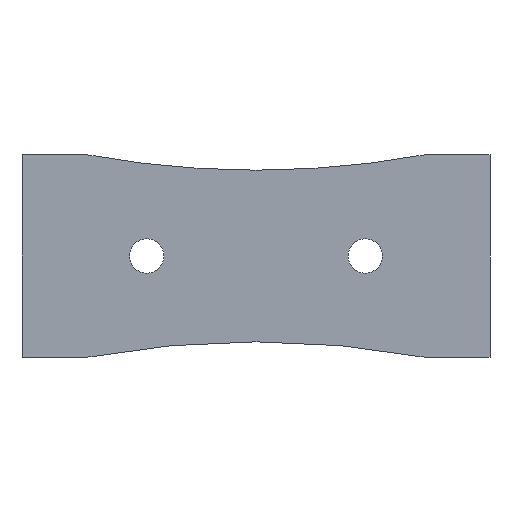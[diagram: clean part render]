
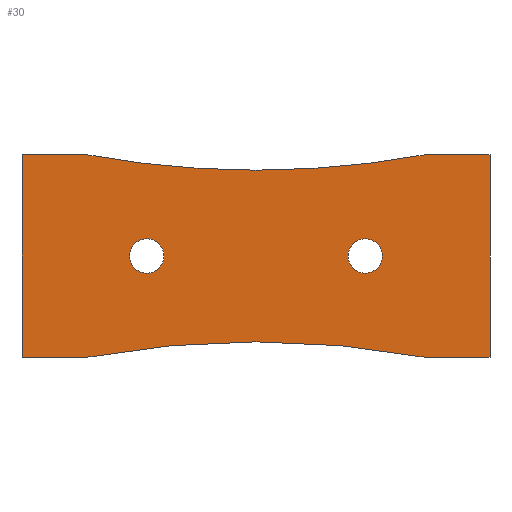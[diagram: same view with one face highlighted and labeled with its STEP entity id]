
A CAD part, left-side view. The second image highlights one B-rep face of the part: STEP entity #30.
In plain terms, the highlighted planar face has unit normal (-1, 0, 0).
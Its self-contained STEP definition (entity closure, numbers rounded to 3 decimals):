
#9 = ORIENTED_EDGE ( 'NONE', *, *, #171, .F. ) ;
#10 = ORIENTED_EDGE ( 'NONE', *, *, #26, .F. ) ;
#12 = ORIENTED_EDGE ( 'NONE', *, *, #210, .F. ) ;
#13 = ORIENTED_EDGE ( 'NONE', *, *, #14, .T. ) ;
#14 = EDGE_CURVE ( 'NONE', #208, #182, #412, .T. ) ;
#15 = ORIENTED_EDGE ( 'NONE', *, *, #180, .F. ) ;
#16 = ORIENTED_EDGE ( 'NONE', *, *, #223, .F. ) ;
#26 = EDGE_CURVE ( 'NONE', #211, #172, #407, .T. ) ;
#30 = ADVANCED_FACE ( 'NONE', ( #403, #402, #401 ), #400, .F. ) ;
#31 = EDGE_LOOP ( 'NONE', ( #32, #34 ) ) ;
#32 = ORIENTED_EDGE ( 'NONE', *, *, #33, .T. ) ;
#33 = EDGE_CURVE ( 'NONE', #79, #81, #395, .T. ) ;
#34 = ORIENTED_EDGE ( 'NONE', *, *, #86, .T. ) ;
#64 = EDGE_CURVE ( 'NONE', #65, #66, #319, .T. ) ;
#65 = VERTEX_POINT ( 'NONE', #315 ) ;
#66 = VERTEX_POINT ( 'NONE', #314 ) ;
#79 = VERTEX_POINT ( 'NONE', #461 ) ;
#81 = VERTEX_POINT ( 'NONE', #454 ) ;
#86 = EDGE_CURVE ( 'NONE', #81, #79, #452, .T. ) ;
#171 = EDGE_CURVE ( 'NONE', #172, #543, #784, .T. ) ;
#172 = VERTEX_POINT ( 'NONE', #780 ) ;
#180 = EDGE_CURVE ( 'NONE', #181, #182, #639, .T. ) ;
#181 = VERTEX_POINT ( 'NONE', #635 ) ;
#182 = VERTEX_POINT ( 'NONE', #634 ) ;
#208 = VERTEX_POINT ( 'NONE', #694 ) ;
#210 = EDGE_CURVE ( 'NONE', #208, #211, #693, .T. ) ;
#211 = VERTEX_POINT ( 'NONE', #689 ) ;
#214 = VERTEX_POINT ( 'NONE', #684 ) ;
#216 = EDGE_CURVE ( 'NONE', #214, #217, #683, .T. ) ;
#217 = VERTEX_POINT ( 'NONE', #679 ) ;
#223 = EDGE_CURVE ( 'NONE', #217, #181, #667, .T. ) ;
#231 = EDGE_LOOP ( 'NONE', ( #232, #234 ) ) ;
#232 = ORIENTED_EDGE ( 'NONE', *, *, #233, .T. ) ;
#233 = EDGE_CURVE ( 'NONE', #66, #65, #595, .T. ) ;
#234 = ORIENTED_EDGE ( 'NONE', *, *, #64, .T. ) ;
#235 = EDGE_LOOP ( 'NONE', ( #236, #237, #239, #9, #10, #12, #13, #15, #16 ) ) ;
#236 = ORIENTED_EDGE ( 'NONE', *, *, #216, .F. ) ;
#237 = ORIENTED_EDGE ( 'NONE', *, *, #238, .T. ) ;
#238 = EDGE_CURVE ( 'NONE', #214, #542, #590, .T. ) ;
#239 = ORIENTED_EDGE ( 'NONE', *, *, #541, .T. ) ;
#314 = CARTESIAN_POINT ( 'NONE',  ( 0., 3.5, -0.55 ) ) ;
#315 = CARTESIAN_POINT ( 'NONE',  ( 0., 3.5, 0.55 ) ) ;
#316 = DIRECTION ( 'NONE',  ( 0., 0., -1. ) ) ;
#317 = DIRECTION ( 'NONE',  ( 1., 0., 0. ) ) ;
#318 = AXIS2_PLACEMENT_3D ( 'NONE', #324, #317, #316 ) ;
#319 = CIRCLE ( 'NONE', #318, 0.55 ) ;
#324 = CARTESIAN_POINT ( 'NONE',  ( 0., 3.5, 0. ) ) ;
#391 = DIRECTION ( 'NONE',  ( 0., 0., -1. ) ) ;
#392 = DIRECTION ( 'NONE',  ( 1., 0., 0. ) ) ;
#393 = CARTESIAN_POINT ( 'NONE',  ( 0., -3.5, 0. ) ) ;
#394 = AXIS2_PLACEMENT_3D ( 'NONE', #393, #392, #391 ) ;
#395 = CIRCLE ( 'NONE', #394, 0.55 ) ;
#396 = DIRECTION ( 'NONE',  ( 0., 0., -1. ) ) ;
#397 = DIRECTION ( 'NONE',  ( 1., 0., 0. ) ) ;
#398 = CARTESIAN_POINT ( 'NONE',  ( 0., -7.5, 3.25 ) ) ;
#399 = AXIS2_PLACEMENT_3D ( 'NONE', #398, #397, #396 ) ;
#400 = PLANE ( 'NONE',  #399 ) ;
#401 = FACE_OUTER_BOUND ( 'NONE', #235, .T. ) ;
#402 = FACE_BOUND ( 'NONE', #231, .T. ) ;
#403 = FACE_BOUND ( 'NONE', #31, .T. ) ;
#404 = DIRECTION ( 'NONE',  ( 0., 0., 1. ) ) ;
#405 = VECTOR ( 'NONE', #404, 1000. ) ;
#406 = CARTESIAN_POINT ( 'NONE',  ( 0., 7.5, 3.25 ) ) ;
#407 = LINE ( 'NONE', #406, #405 ) ;
#408 = DIRECTION ( 'NONE',  ( 0., 0., -1. ) ) ;
#409 = DIRECTION ( 'NONE',  ( 1., 0., 0. ) ) ;
#410 = CARTESIAN_POINT ( 'NONE',  ( 0., 0., -32.751 ) ) ;
#411 = AXIS2_PLACEMENT_3D ( 'NONE', #410, #409, #408 ) ;
#412 = CIRCLE ( 'NONE', #411, 30. ) ;
#448 = DIRECTION ( 'NONE',  ( 0., 0., -1. ) ) ;
#449 = DIRECTION ( 'NONE',  ( 1., 0., 0. ) ) ;
#450 = CARTESIAN_POINT ( 'NONE',  ( 0., -3.5, 0. ) ) ;
#451 = AXIS2_PLACEMENT_3D ( 'NONE', #450, #449, #448 ) ;
#452 = CIRCLE ( 'NONE', #451, 0.55 ) ;
#454 = CARTESIAN_POINT ( 'NONE',  ( 0., -3.5, 0.55 ) ) ;
#461 = CARTESIAN_POINT ( 'NONE',  ( 0., -3.5, -0.55 ) ) ;
#541 = EDGE_CURVE ( 'NONE', #542, #543, #908, .T. ) ;
#542 = VERTEX_POINT ( 'NONE', #904 ) ;
#543 = VERTEX_POINT ( 'NONE', #903 ) ;
#586 = DIRECTION ( 'NONE',  ( 0., 0., -1. ) ) ;
#587 = DIRECTION ( 'NONE',  ( 1., 0., 0. ) ) ;
#588 = CARTESIAN_POINT ( 'NONE',  ( 0., 0., 32.751 ) ) ;
#589 = AXIS2_PLACEMENT_3D ( 'NONE', #588, #587, #586 ) ;
#590 = CIRCLE ( 'NONE', #589, 30. ) ;
#591 = DIRECTION ( 'NONE',  ( 0., 0., -1. ) ) ;
#592 = DIRECTION ( 'NONE',  ( 1., 0., 0. ) ) ;
#593 = CARTESIAN_POINT ( 'NONE',  ( 0., 3.5, 0. ) ) ;
#594 = AXIS2_PLACEMENT_3D ( 'NONE', #593, #592, #591 ) ;
#595 = CIRCLE ( 'NONE', #594, 0.55 ) ;
#634 = CARTESIAN_POINT ( 'NONE',  ( 0., -5.45, -3.25 ) ) ;
#635 = CARTESIAN_POINT ( 'NONE',  ( 0., -7.5, -3.25 ) ) ;
#636 = DIRECTION ( 'NONE',  ( 0., 1., 0. ) ) ;
#637 = VECTOR ( 'NONE', #636, 1000. ) ;
#638 = CARTESIAN_POINT ( 'NONE',  ( 0., 7.5, -3.25 ) ) ;
#639 = LINE ( 'NONE', #638, #637 ) ;
#664 = DIRECTION ( 'NONE',  ( 0., 0., -1. ) ) ;
#665 = VECTOR ( 'NONE', #664, 1000. ) ;
#666 = CARTESIAN_POINT ( 'NONE',  ( 0., -7.5, 3.25 ) ) ;
#667 = LINE ( 'NONE', #666, #665 ) ;
#679 = CARTESIAN_POINT ( 'NONE',  ( 0., -7.5, 3.25 ) ) ;
#680 = DIRECTION ( 'NONE',  ( 0., -1., 0. ) ) ;
#681 = VECTOR ( 'NONE', #680, 1000. ) ;
#682 = CARTESIAN_POINT ( 'NONE',  ( 0., 7.5, 3.25 ) ) ;
#683 = LINE ( 'NONE', #682, #681 ) ;
#684 = CARTESIAN_POINT ( 'NONE',  ( 0., -5.45, 3.25 ) ) ;
#689 = CARTESIAN_POINT ( 'NONE',  ( 0., 7.5, -3.25 ) ) ;
#690 = DIRECTION ( 'NONE',  ( 0., 1., 0. ) ) ;
#691 = VECTOR ( 'NONE', #690, 1000. ) ;
#692 = CARTESIAN_POINT ( 'NONE',  ( 0., 7.5, -3.25 ) ) ;
#693 = LINE ( 'NONE', #692, #691 ) ;
#694 = CARTESIAN_POINT ( 'NONE',  ( 0., 5.45, -3.25 ) ) ;
#780 = CARTESIAN_POINT ( 'NONE',  ( 0., 7.5, 3.25 ) ) ;
#781 = DIRECTION ( 'NONE',  ( 0., -1., 0. ) ) ;
#782 = VECTOR ( 'NONE', #781, 1000. ) ;
#783 = CARTESIAN_POINT ( 'NONE',  ( 0., 7.5, 3.25 ) ) ;
#784 = LINE ( 'NONE', #783, #782 ) ;
#862 = CARTESIAN_POINT ( 'NONE',  ( 0., 0., 32.751 ) ) ;
#903 = CARTESIAN_POINT ( 'NONE',  ( 0., 5.45, 3.25 ) ) ;
#904 = CARTESIAN_POINT ( 'NONE',  ( 0., 0., 2.751 ) ) ;
#905 = DIRECTION ( 'NONE',  ( 0., 0., -1. ) ) ;
#906 = DIRECTION ( 'NONE',  ( 1., 0., 0. ) ) ;
#907 = AXIS2_PLACEMENT_3D ( 'NONE', #862, #906, #905 ) ;
#908 = CIRCLE ( 'NONE', #907, 30. ) ;
